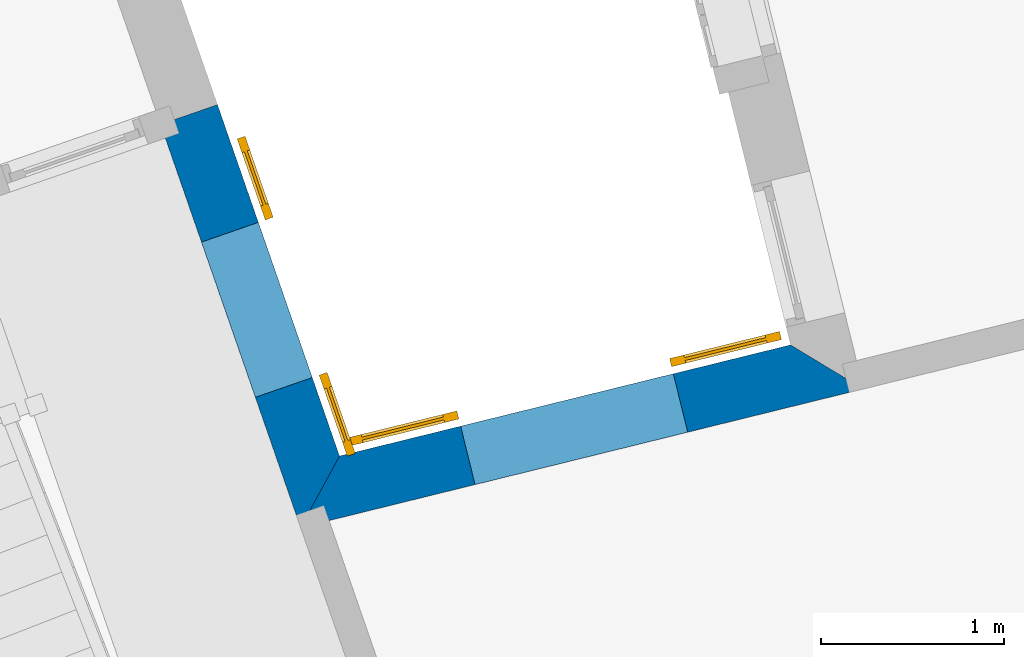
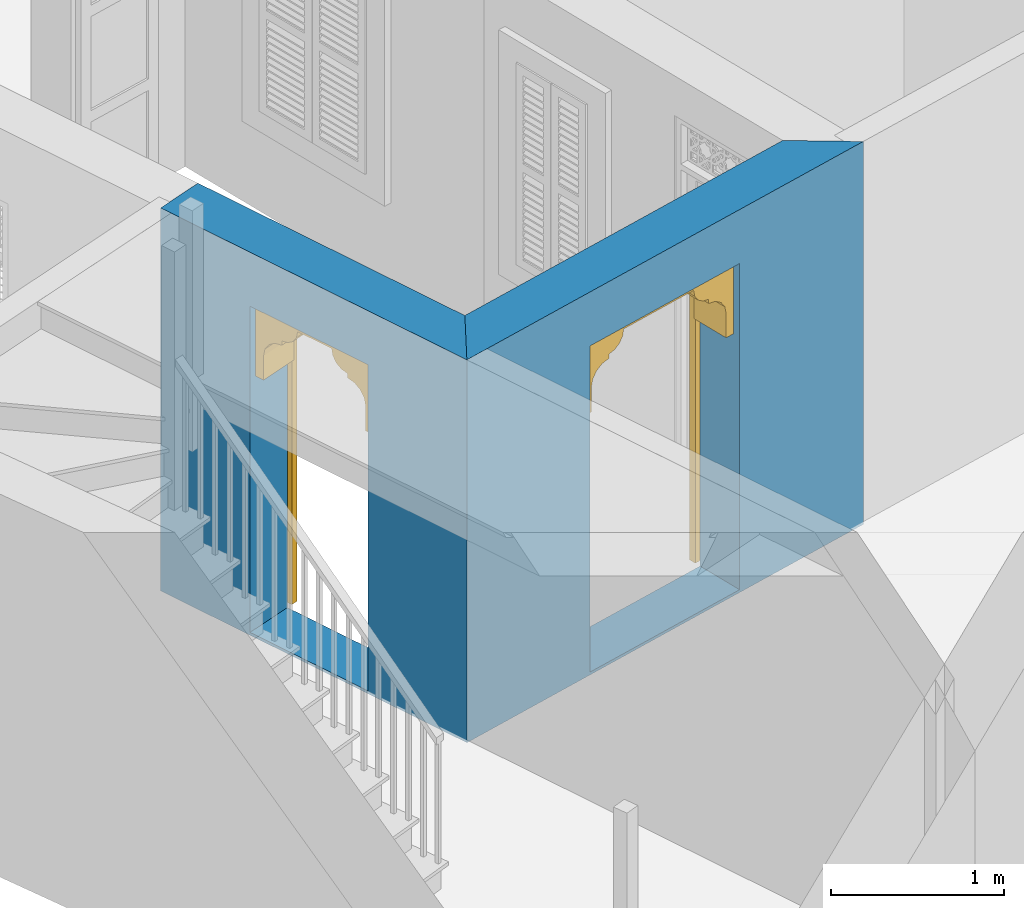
# One storey, part 4 of 12: 2 doors, 2 walls, 2 openings.
"""IFC4 building model written with IfcOpenShell, lengths in metres."""

from ifc_helpers import new_model, si_unit, frame, origin, origin_with_axes, place, context, subcontext, project, spatial, polyline, outline, extrude, faceted_brep, source, transform, mapped, material, layer, layer_set, layer_usage, type_object, type_shapes, element, fill, save


model = new_model("IFC4")

# Units and contexts
model_context = context("Model", 3, world=origin_with_axes())
body_context = subcontext(model_context, "Body", "Model", "MODEL_VIEW")
ifc_project = project(units=[si_unit("PLANEANGLEUNIT", "RADIAN"), si_unit("MASSUNIT", "GRAM", prefix="KILO"), si_unit("FORCEUNIT", "NEWTON", prefix="KILO"), si_unit("LENGTHUNIT", "METRE"), si_unit("AREAUNIT", "SQUARE_METRE"), si_unit("VOLUMEUNIT", "CUBIC_METRE")], contexts=[model_context, model_context])

# Site, building, storey
site_placement = place(None, origin_with_axes())
site = spatial("IfcSite", under=ifc_project, at=site_placement, Name="Site plot-1", CompositionType="ELEMENT")
building_placement = place(None, origin_with_axes())
building = spatial("IfcBuilding", under=site, at=building_placement, Name="Building plot-1", CompositionType="ELEMENT")
storey_placement = place(None, origin_with_axes())
storey = spatial("IfcBuildingStorey", under=building, at=storey_placement, Name="plot-1 0", CompositionType="ELEMENT", Elevation=0.0)

# Wall, opening, door
ifc_material = material(Name="Masonry")
ifc_layer = layer(ifc_material, 0.33, ventilated=False)
ifc_layer_set = layer_set([ifc_layer], Name="exterior_0.08_0.25")
ifc_layer_usage = layer_usage(ifc_layer_set, "AXIS2", "POSITIVE", -0.25)
wall_type = type_object("IfcWallType", Name="exterior_0.08_0.25", PredefinedType="SOLIDWALL", material=ifc_layer_set)
wall_1_placement = place(storey_placement, frame((3.15375789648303, 18.5725793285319, 0.0), z_axis=(0.0, 0.0, 1.0), x_axis=(-0.970961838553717, -0.239234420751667, 0.0)))
wall_1 = element("IfcWall", 1, at=wall_1_placement, inside=storey, type_object=wall_type, material=ifc_layer_usage, Name="exterior", context=body_context, shape_type="SweptSolid", body=[
    extrude(outline(polyline([(-0.0799999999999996, 0.0799999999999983), (0.249999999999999, -0.250000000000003), (2.79469538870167, -0.250000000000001), (3.09543964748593, 0.0799999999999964), (-0.0799999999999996, 0.0799999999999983)])), origin_with_axes(), (0.0, 0.0, 1.0), 2.7),
])
opening_1_placement = place(wall_1_placement, frame((0.911265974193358, 0.0, 0.02)))
opening_1 = element("IfcOpeningElement", 2, at=opening_1_placement, cuts=wall_1, Name="My Opening", ObjectType="Opening", context=body_context, shape_type="SweptSolid", body=[
    extrude(outline(polyline([(0.0, -0.270000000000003), (1.2, -0.27), (1.2, 1.1), (8.88178419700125e-16, 1.1), (0.0, -0.270000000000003)])), origin_with_axes(), (0.0, 0.0, 1.0), 2.3),
])
door_type_1 = type_object("IfcDoorType", Name="arch-1200x2300", OperationType="SINGLE_SWING_LEFT", PredefinedType="NOTDEFINED")
shared_shape_1 = source(origin(), body_context, "Body", "Brep", [
    faceted_brep([(-0.08, -0.02, 0.08), (-0.08, -0.02, 0.0), (-0.54, -0.02, 0.0), (-0.54, -0.02, 0.08), (-0.62, -0.02, 0.0), (-0.62, -0.02, 0.08), (-0.54, -0.035, 0.08), (-0.08, -0.035, 0.08), (0.0, -0.02, 0.08), (0.0, -0.02, 0.0), (-0.08, -0.066, 0.0), (-0.54, -0.066, 0.0), (-0.62, -0.066, 0.0), (-0.62, -0.066, 0.08), (-0.54, -0.02, 0.743333), (-0.62, -0.02, 0.743333), (-0.54, -0.035, 0.743333), (-0.08, -0.035, 0.743333), (-0.08, -0.02, 0.743333), (0.0, -0.02, 0.743333), (0.0, -0.066, 0.08), (0.0, -0.066, 0.0), (-0.54, -0.066, 0.08), (-0.08, -0.066, 0.08), (-0.62, -0.066, 0.743333), (-0.54, -0.02, 0.823333), (-0.62, -0.02, 0.823333), (0.0, -0.066, 0.743333), (0.0, -0.02, 0.823333), (-0.08, -0.02, 0.823333), (-0.08, -0.051, 0.08), (-0.54, -0.051, 0.08), (-0.54, -0.066, 0.743333), (-0.62, -0.066, 0.823333), (-0.54, -0.02, 1.486667), (-0.62, -0.02, 1.486667), (0.0, -0.066, 0.823333), (-0.08, -0.066, 0.743333), (0.0, -0.02, 1.486667), (-0.08, -0.02, 1.486667), (-0.08, -0.051, 0.743333), (-0.54, -0.051, 0.743333), (-0.54, -0.066, 0.823333), (-0.62, -0.066, 1.486667), (-0.54, -0.035, 0.823333), (-0.08, -0.035, 0.823333), (-0.54, -0.035, 1.486667), (-0.54, -0.02, 1.566667), (-0.62, -0.02, 1.566667), (0.0, -0.066, 1.486667), (-0.08, -0.066, 0.823333), (-0.08, -0.035, 1.486667), (0.0, -0.02, 1.566667), (-0.08, -0.02, 1.566667), (-0.54, -0.066, 1.486667), (-0.62, -0.066, 1.566667), (-0.54, -0.02, 2.23), (-0.62, -0.02, 2.23), (0.0, -0.066, 1.566667), (-0.08, -0.066, 1.486667), (0.0, -0.02, 2.23), (-0.08, -0.02, 2.23), (-0.08, -0.051, 0.823333), (-0.54, -0.051, 0.823333), (-0.54, -0.051, 1.486667), (-0.54, -0.066, 1.566667), (-0.62, -0.066, 2.23), (-0.54, -0.035, 1.566667), (-0.08, -0.035, 1.566667), (-0.54, -0.035, 2.23), (-0.54, -0.02, 2.31), (-0.62, -0.02, 2.31), (0.0, -0.066, 2.23), (-0.08, -0.066, 1.566667), (-0.08, -0.051, 1.486667), (-0.08, -0.035, 2.23), (0.0, -0.02, 2.31), (-0.08, -0.02, 2.31), (-0.54, -0.066, 2.23), (-0.62, -0.066, 2.31), (-0.54, -0.066, 2.31), (0.0, -0.066, 2.31), (-0.08, -0.066, 2.23), (-0.08, -0.066, 2.31), (-0.08, -0.051, 1.566667), (-0.54, -0.051, 1.566667), (-0.54, -0.051, 2.23), (-0.08, -0.051, 2.23), (1.74, -0.02, 0.08), (1.74, -0.02, 0.0), (1.28, -0.02, 0.0), (1.28, -0.02, 0.08), (1.82, -0.02, 0.08), (1.82, -0.02, 0.0), (1.28, -0.035, 0.08), (1.74, -0.035, 0.08), (1.2, -0.02, 0.0), (1.2, -0.02, 0.08), (1.74, -0.066, 0.0), (1.28, -0.066, 0.0), (1.82, -0.066, 0.08), (1.82, -0.066, 0.0), (1.82, -0.02, 0.743333), (1.74, -0.02, 0.743333), (1.74, -0.035, 0.743333), (1.28, -0.035, 0.743333), (1.28, -0.02, 0.743333), (1.2, -0.02, 0.743333), (1.2, -0.066, 0.0), (1.2, -0.066, 0.08), (1.28, -0.066, 0.08), (1.74, -0.066, 0.08), (1.82, -0.066, 0.743333), (1.82, -0.02, 0.823333), (1.74, -0.02, 0.823333), (1.2, -0.066, 0.743333), (1.28, -0.02, 0.823333), (1.2, -0.02, 0.823333), (1.74, -0.051, 0.08), (1.28, -0.051, 0.08), (1.74, -0.066, 0.743333), (1.82, -0.066, 0.823333), (1.82, -0.02, 1.486667), (1.74, -0.02, 1.486667), (1.2, -0.066, 0.823333), (1.28, -0.066, 0.743333), (1.28, -0.02, 1.486667), (1.2, -0.02, 1.486667), (1.28, -0.051, 0.743333), (1.74, -0.051, 0.743333), (1.74, -0.066, 0.823333), (1.82, -0.066, 1.486667), (1.28, -0.035, 0.823333), (1.74, -0.035, 0.823333), (1.74, -0.035, 1.486667), (1.82, -0.02, 1.566667), (1.74, -0.02, 1.566667), (1.2, -0.066, 1.486667), (1.28, -0.066, 0.823333), (1.28, -0.035, 1.486667), (1.28, -0.02, 1.566667), (1.2, -0.02, 1.566667), (1.74, -0.066, 1.486667), (1.82, -0.066, 1.566667), (1.82, -0.02, 2.23), (1.74, -0.02, 2.23), (1.2, -0.066, 1.566667), (1.28, -0.066, 1.486667), (1.28, -0.02, 2.23), (1.2, -0.02, 2.23), (1.74, -0.051, 0.823333), (1.28, -0.051, 0.823333), (1.74, -0.051, 1.486667), (1.74, -0.066, 1.566667), (1.82, -0.066, 2.23), (1.28, -0.035, 1.566667), (1.74, -0.035, 1.566667), (1.74, -0.035, 2.23), (1.82, -0.02, 2.31), (1.74, -0.02, 2.31), (1.2, -0.066, 2.23), (1.28, -0.066, 1.566667), (1.28, -0.051, 1.486667), (1.28, -0.035, 2.23), (1.28, -0.02, 2.31), (1.2, -0.02, 2.31), (1.74, -0.066, 2.23), (1.82, -0.066, 2.31), (1.74, -0.066, 2.31), (1.2, -0.066, 2.31), (1.28, -0.066, 2.23), (1.28, -0.066, 2.31), (1.74, -0.051, 1.566667), (1.28, -0.051, 1.566667), (1.74, -0.051, 2.23), (1.28, -0.051, 2.23), (1.2, 0.03, 1.78), (1.2, 0.03, 1.95), (1.14, 0.03, 1.95), (1.14, 0.03, 1.78), (1.14, 0.3, 1.95), (1.14, 0.3, 1.78), (1.2, 0.03, 2.12), (1.129, 0.03, 2.004), (1.2, 0.3, 1.78), (1.2, 0.3, 1.95), (1.129, 0.3, 2.004), (1.099, 0.03, 2.049), (1.2, 0.3, 2.12), (1.099, 0.3, 2.049), (1.054, 0.03, 2.079), (1.2, 0.3, 2.29), (1.2, 0.03, 2.29), (1.054, 0.3, 2.079), (1.0, 0.03, 2.09), (1.0, 0.03, 2.12), (0.954, 0.03, 2.129), (0.88, 0.3, 2.29), (0.88, 0.03, 2.29), (1.0, 0.3, 2.12), (0.954, 0.3, 2.129), (1.0, 0.3, 2.09), (0.915, 0.03, 2.155), (0.889, 0.3, 2.194), (0.88, 0.3, 2.24), (0.88, 0.03, 2.24), (0.889, 0.03, 2.194), (0.915, 0.3, 2.155), (0.06, 0.03, 1.78), (0.06, 0.03, 1.95), (0.0, 0.03, 1.95), (0.0, 0.03, 1.78), (0.06, 0.3, 1.78), (0.06, 0.3, 1.95), (0.071, 0.03, 2.004), (0.0, 0.03, 2.12), (0.0, 0.3, 1.95), (0.0, 0.3, 1.78), (0.071, 0.3, 2.004), (0.101, 0.03, 2.049), (0.0, 0.3, 2.12), (0.101, 0.3, 2.049), (0.146, 0.03, 2.079), (0.0, 0.03, 2.29), (0.0, 0.3, 2.29), (0.146, 0.3, 2.079), (0.2, 0.03, 2.12), (0.2, 0.03, 2.09), (0.246, 0.03, 2.129), (0.32, 0.03, 2.29), (0.32, 0.3, 2.29), (0.246, 0.3, 2.129), (0.2, 0.3, 2.12), (0.2, 0.3, 2.09), (0.285, 0.03, 2.155), (0.32, 0.3, 2.24), (0.311, 0.3, 2.194), (0.311, 0.03, 2.194), (0.32, 0.03, 2.24), (0.285, 0.3, 2.155)], [[[0, 1, 2, 3]], [[4, 5, 3, 2]], [[0, 3, 6, 7]], [[1, 0, 8, 9]], [[2, 1, 10, 11]], [[5, 4, 12, 13]], [[14, 3, 5, 15]], [[4, 2, 11, 12]], [[3, 14, 16, 6]], [[6, 16, 17, 7]], [[18, 0, 7, 17]], [[0, 18, 19, 8]], [[9, 8, 20, 21]], [[1, 9, 21, 10]], [[22, 11, 10, 23]], [[13, 12, 11, 22]], [[15, 5, 13, 24]], [[25, 14, 15, 26]], [[14, 18, 17, 16]], [[8, 19, 27, 20]], [[28, 19, 18, 29]], [[23, 10, 21, 20]], [[22, 23, 30, 31]], [[22, 32, 24, 13]], [[26, 15, 24, 33]], [[29, 18, 14, 25]], [[34, 25, 26, 35]], [[19, 28, 36, 27]], [[20, 27, 37, 23]], [[38, 28, 29, 39]], [[23, 37, 40, 30]], [[41, 31, 30, 40]], [[32, 22, 31, 41]], [[32, 42, 33, 24]], [[35, 26, 33, 43]], [[29, 25, 44, 45]], [[25, 34, 46, 44]], [[47, 34, 35, 48]], [[28, 38, 49, 36]], [[27, 36, 50, 37]], [[39, 29, 45, 51]], [[52, 38, 39, 53]], [[37, 32, 41, 40]], [[37, 50, 42, 32]], [[42, 54, 43, 33]], [[48, 35, 43, 55]], [[44, 46, 51, 45]], [[34, 39, 51, 46]], [[34, 47, 53, 39]], [[56, 47, 48, 57]], [[38, 52, 58, 49]], [[36, 49, 59, 50]], [[60, 52, 53, 61]], [[42, 50, 62, 63]], [[54, 42, 63, 64]], [[54, 65, 55, 43]], [[57, 48, 55, 66]], [[53, 47, 67, 68]], [[47, 56, 69, 67]], [[70, 56, 57, 71]], [[52, 60, 72, 58]], [[49, 58, 73, 59]], [[50, 59, 74, 62]], [[61, 53, 68, 75]], [[76, 60, 61, 77]], [[64, 63, 62, 74]], [[59, 54, 64, 74]], [[65, 54, 59, 73]], [[65, 78, 66, 55]], [[71, 57, 66, 79]], [[67, 69, 75, 68]], [[56, 61, 75, 69]], [[77, 61, 56, 70]], [[70, 71, 79, 80]], [[60, 76, 81, 72]], [[58, 72, 82, 73]], [[76, 77, 83, 81]], [[65, 73, 84, 85]], [[78, 65, 85, 86]], [[78, 80, 79, 66]], [[77, 70, 80, 83]], [[72, 81, 83, 82]], [[73, 82, 87, 84]], [[86, 85, 84, 87]], [[82, 78, 86, 87]], [[82, 83, 80, 78]], [[88, 89, 90, 91]], [[89, 88, 92, 93]], [[94, 95, 88, 91]], [[96, 97, 91, 90]], [[98, 99, 90, 89]], [[100, 101, 93, 92]], [[102, 92, 88, 103]], [[101, 98, 89, 93]], [[95, 104, 103, 88]], [[94, 105, 104, 95]], [[105, 94, 91, 106]], [[97, 107, 106, 91]], [[108, 109, 97, 96]], [[99, 108, 96, 90]], [[110, 99, 98, 111]], [[111, 98, 101, 100]], [[112, 100, 92, 102]], [[113, 102, 103, 114]], [[104, 105, 106, 103]], [[109, 115, 107, 97]], [[116, 106, 107, 117]], [[109, 108, 99, 110]], [[118, 119, 110, 111]], [[100, 112, 120, 111]], [[121, 112, 102, 113]], [[114, 103, 106, 116]], [[122, 113, 114, 123]], [[115, 124, 117, 107]], [[110, 125, 115, 109]], [[126, 116, 117, 127]], [[119, 128, 125, 110]], [[128, 119, 118, 129]], [[129, 118, 111, 120]], [[112, 121, 130, 120]], [[131, 121, 113, 122]], [[132, 133, 114, 116]], [[133, 134, 123, 114]], [[135, 122, 123, 136]], [[124, 137, 127, 117]], [[125, 138, 124, 115]], [[139, 132, 116, 126]], [[140, 126, 127, 141]], [[128, 129, 120, 125]], [[120, 130, 138, 125]], [[121, 131, 142, 130]], [[143, 131, 122, 135]], [[132, 139, 134, 133]], [[134, 139, 126, 123]], [[126, 140, 136, 123]], [[144, 135, 136, 145]], [[137, 146, 141, 127]], [[138, 147, 137, 124]], [[148, 140, 141, 149]], [[150, 151, 138, 130]], [[152, 150, 130, 142]], [[131, 143, 153, 142]], [[154, 143, 135, 144]], [[155, 156, 136, 140]], [[156, 157, 145, 136]], [[158, 144, 145, 159]], [[146, 160, 149, 141]], [[147, 161, 146, 137]], [[151, 162, 147, 138]], [[163, 155, 140, 148]], [[164, 148, 149, 165]], [[162, 151, 150, 152]], [[162, 152, 142, 147]], [[161, 147, 142, 153]], [[143, 154, 166, 153]], [[167, 154, 144, 158]], [[155, 163, 157, 156]], [[157, 163, 148, 145]], [[159, 145, 148, 164]], [[168, 167, 158, 159]], [[160, 169, 165, 149]], [[161, 170, 160, 146]], [[169, 171, 164, 165]], [[172, 173, 161, 153]], [[174, 172, 153, 166]], [[154, 167, 168, 166]], [[171, 168, 159, 164]], [[170, 171, 169, 160]], [[173, 175, 170, 161]], [[175, 173, 172, 174]], [[175, 174, 166, 170]], [[166, 168, 171, 170]], [[176, 177, 178, 179]], [[180, 181, 179, 178]], [[177, 182, 183, 178]], [[177, 176, 184, 185]], [[181, 184, 176, 179]], [[181, 180, 185, 184]], [[186, 180, 178, 183]], [[182, 187, 183]], [[182, 177, 185, 188]], [[180, 186, 188, 185]], [[189, 186, 183, 187]], [[182, 190, 187]], [[188, 191, 192, 182]], [[188, 186, 189]], [[193, 189, 187, 190]], [[194, 190, 182, 195]], [[182, 192, 196, 195]], [[192, 191, 197, 198]], [[199, 200, 191, 188]], [[188, 189, 193]], [[201, 193, 190, 194]], [[199, 201, 194, 195]], [[200, 199, 195, 196]], [[192, 202, 196]], [[191, 203, 204, 197]], [[192, 198, 205, 206]], [[207, 191, 200]], [[199, 188, 193, 201]], [[207, 200, 196, 202]], [[192, 206, 202]], [[204, 203, 206, 205]], [[203, 191, 207]], [[203, 207, 202, 206]], [[208, 209, 210, 211]], [[209, 208, 212, 213]], [[209, 214, 215, 210]], [[211, 210, 216, 217]], [[208, 211, 217, 212]], [[217, 216, 213, 212]], [[214, 209, 213, 218]], [[214, 219, 215]], [[220, 216, 210, 215]], [[216, 220, 218, 213]], [[219, 214, 218, 221]], [[219, 222, 215]], [[215, 223, 224, 220]], [[221, 218, 220]], [[222, 219, 221, 225]], [[226, 215, 222, 227]], [[226, 228, 223, 215]], [[229, 230, 224, 223]], [[220, 224, 231, 232]], [[225, 221, 220]], [[227, 222, 225, 233]], [[226, 227, 233, 232]], [[228, 226, 232, 231]], [[228, 234, 223]], [[230, 235, 236, 224]], [[237, 238, 229, 223]], [[231, 224, 239]], [[233, 225, 220, 232]], [[234, 228, 231, 239]], [[234, 237, 223]], [[238, 237, 236, 235]], [[239, 224, 236]], [[237, 234, 239, 236]], [[238, 235, 204, 205]], [[235, 230, 197, 204]], [[229, 238, 205, 198]], [[230, 229, 198, 197]]]),
])
type_shapes(door_type_1, [shared_shape_1])
door_1_placement = place(storey_placement, frame((2.20436011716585, 18.6167328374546, 0.02), z_axis=(0.0, 0.0, 1.0), x_axis=(-1.16515420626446, -0.287081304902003, 0.0)))
door_1 = element("IfcDoor", 3, at=door_1_placement, inside=storey, type_object=door_type_1, Name="living sahn door", OverallHeight=2.3, OverallWidth=1.2, context=body_context, shape_type="MappedRepresentation", body=[
    mapped(shared_shape_1, transform((0.0, 0.0, 0.0), scale=1.0)),
])
fill(opening_1, door_1)

wall_2_placement = place(storey_placement, frame((0.218994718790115, 17.8494856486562, 0.0), z_axis=(0.0, 0.0, 1.0), x_axis=(-0.328085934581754, 0.944647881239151, 0.0)))
wall_2 = element("IfcWall", 4, at=wall_2_placement, inside=storey, type_object=wall_type, material=ifc_layer_usage, Name="exterior", context=body_context, shape_type="SweptSolid", body=[
    extrude(outline(polyline([(-0.0729076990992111, 0.0799999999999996), (0.227836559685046, -0.249999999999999), (2.26575725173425, -0.25), (2.26575725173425, 0.0799999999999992), (-0.0729076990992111, 0.0799999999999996)])), origin_with_axes(), (0.0, 0.0, 1.0), 2.7),
])
opening_2_placement = place(wall_2_placement, frame((0.682878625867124, 0.0, 0.02)))
opening_2 = element("IfcOpeningElement", 5, at=opening_2_placement, cuts=wall_2, Name="My Opening", ObjectType="Opening", context=body_context, shape_type="SweptSolid", body=[
    extrude(outline(polyline([(0.0, -0.27), (0.900000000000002, -0.27), (0.900000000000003, 1.1), (1.22124532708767e-15, 1.1), (0.0, -0.27)])), origin_with_axes(), (0.0, 0.0, 1.0), 2.3),
])
door_type_2 = type_object("IfcDoorType", Name="arch-900x2300", OperationType="SINGLE_SWING_LEFT", PredefinedType="NOTDEFINED")
shared_shape_2 = source(origin(), body_context, "Body", "Brep", [
    faceted_brep([(-0.08, -0.02, 0.08), (-0.08, -0.02, 0.0), (-0.39, -0.02, 0.0), (-0.39, -0.02, 0.08), (-0.47, -0.02, 0.0), (-0.47, -0.02, 0.08), (-0.39, -0.035, 0.08), (-0.08, -0.035, 0.08), (0.0, -0.02, 0.08), (0.0, -0.02, 0.0), (-0.08, -0.066, 0.0), (-0.39, -0.066, 0.0), (-0.47, -0.066, 0.0), (-0.47, -0.066, 0.08), (-0.39, -0.02, 0.743333), (-0.47, -0.02, 0.743333), (-0.39, -0.035, 0.743333), (-0.08, -0.035, 0.743333), (-0.08, -0.02, 0.743333), (0.0, -0.02, 0.743333), (0.0, -0.066, 0.08), (0.0, -0.066, 0.0), (-0.39, -0.066, 0.08), (-0.08, -0.066, 0.08), (-0.47, -0.066, 0.743333), (-0.39, -0.02, 0.823333), (-0.47, -0.02, 0.823333), (0.0, -0.066, 0.743333), (0.0, -0.02, 0.823333), (-0.08, -0.02, 0.823333), (-0.08, -0.051, 0.08), (-0.39, -0.051, 0.08), (-0.39, -0.066, 0.743333), (-0.47, -0.066, 0.823333), (-0.39, -0.02, 1.486667), (-0.47, -0.02, 1.486667), (0.0, -0.066, 0.823333), (-0.08, -0.066, 0.743333), (0.0, -0.02, 1.486667), (-0.08, -0.02, 1.486667), (-0.08, -0.051, 0.743333), (-0.39, -0.051, 0.743333), (-0.39, -0.066, 0.823333), (-0.47, -0.066, 1.486667), (-0.39, -0.035, 0.823333), (-0.08, -0.035, 0.823333), (-0.39, -0.035, 1.486667), (-0.39, -0.02, 1.566667), (-0.47, -0.02, 1.566667), (0.0, -0.066, 1.486667), (-0.08, -0.066, 0.823333), (-0.08, -0.035, 1.486667), (0.0, -0.02, 1.566667), (-0.08, -0.02, 1.566667), (-0.39, -0.066, 1.486667), (-0.47, -0.066, 1.566667), (-0.39, -0.02, 2.23), (-0.47, -0.02, 2.23), (0.0, -0.066, 1.566667), (-0.08, -0.066, 1.486667), (0.0, -0.02, 2.23), (-0.08, -0.02, 2.23), (-0.08, -0.051, 0.823333), (-0.39, -0.051, 0.823333), (-0.39, -0.051, 1.486667), (-0.39, -0.066, 1.566667), (-0.47, -0.066, 2.23), (-0.39, -0.035, 1.566667), (-0.08, -0.035, 1.566667), (-0.39, -0.035, 2.23), (-0.39, -0.02, 2.31), (-0.47, -0.02, 2.31), (0.0, -0.066, 2.23), (-0.08, -0.066, 1.566667), (-0.08, -0.051, 1.486667), (-0.08, -0.035, 2.23), (0.0, -0.02, 2.31), (-0.08, -0.02, 2.31), (-0.39, -0.066, 2.23), (-0.47, -0.066, 2.31), (-0.39, -0.066, 2.31), (0.0, -0.066, 2.31), (-0.08, -0.066, 2.23), (-0.08, -0.066, 2.31), (-0.08, -0.051, 1.566667), (-0.39, -0.051, 1.566667), (-0.39, -0.051, 2.23), (-0.08, -0.051, 2.23), (1.29, -0.02, 0.08), (1.29, -0.02, 0.0), (0.98, -0.02, 0.0), (0.98, -0.02, 0.08), (1.37, -0.02, 0.08), (1.37, -0.02, 0.0), (0.98, -0.035, 0.08), (1.29, -0.035, 0.08), (0.9, -0.02, 0.0), (0.9, -0.02, 0.08), (1.29, -0.066, 0.0), (0.98, -0.066, 0.0), (1.37, -0.066, 0.08), (1.37, -0.066, 0.0), (1.37, -0.02, 0.743333), (1.29, -0.02, 0.743333), (1.29, -0.035, 0.743333), (0.98, -0.035, 0.743333), (0.98, -0.02, 0.743333), (0.9, -0.02, 0.743333), (0.9, -0.066, 0.0), (0.9, -0.066, 0.08), (0.98, -0.066, 0.08), (1.29, -0.066, 0.08), (1.37, -0.066, 0.743333), (1.37, -0.02, 0.823333), (1.29, -0.02, 0.823333), (0.9, -0.066, 0.743333), (0.98, -0.02, 0.823333), (0.9, -0.02, 0.823333), (1.29, -0.051, 0.08), (0.98, -0.051, 0.08), (1.29, -0.066, 0.743333), (1.37, -0.066, 0.823333), (1.37, -0.02, 1.486667), (1.29, -0.02, 1.486667), (0.9, -0.066, 0.823333), (0.98, -0.066, 0.743333), (0.98, -0.02, 1.486667), (0.9, -0.02, 1.486667), (0.98, -0.051, 0.743333), (1.29, -0.051, 0.743333), (1.29, -0.066, 0.823333), (1.37, -0.066, 1.486667), (0.98, -0.035, 0.823333), (1.29, -0.035, 0.823333), (1.29, -0.035, 1.486667), (1.37, -0.02, 1.566667), (1.29, -0.02, 1.566667), (0.9, -0.066, 1.486667), (0.98, -0.066, 0.823333), (0.98, -0.035, 1.486667), (0.98, -0.02, 1.566667), (0.9, -0.02, 1.566667), (1.29, -0.066, 1.486667), (1.37, -0.066, 1.566667), (1.37, -0.02, 2.23), (1.29, -0.02, 2.23), (0.9, -0.066, 1.566667), (0.98, -0.066, 1.486667), (0.98, -0.02, 2.23), (0.9, -0.02, 2.23), (1.29, -0.051, 0.823333), (0.98, -0.051, 0.823333), (1.29, -0.051, 1.486667), (1.29, -0.066, 1.566667), (1.37, -0.066, 2.23), (0.98, -0.035, 1.566667), (1.29, -0.035, 1.566667), (1.29, -0.035, 2.23), (1.37, -0.02, 2.31), (1.29, -0.02, 2.31), (0.9, -0.066, 2.23), (0.98, -0.066, 1.566667), (0.98, -0.051, 1.486667), (0.98, -0.035, 2.23), (0.98, -0.02, 2.31), (0.9, -0.02, 2.31), (1.29, -0.066, 2.23), (1.37, -0.066, 2.31), (1.29, -0.066, 2.31), (0.9, -0.066, 2.31), (0.98, -0.066, 2.23), (0.98, -0.066, 2.31), (1.29, -0.051, 1.566667), (0.98, -0.051, 1.566667), (1.29, -0.051, 2.23), (0.98, -0.051, 2.23), (0.9, 0.03, 1.78), (0.9, 0.03, 1.95), (0.84, 0.03, 1.95), (0.84, 0.03, 1.78), (0.84, 0.3, 1.95), (0.84, 0.3, 1.78), (0.9, 0.03, 2.12), (0.829, 0.03, 2.004), (0.9, 0.3, 1.78), (0.9, 0.3, 1.95), (0.829, 0.3, 2.004), (0.799, 0.03, 2.049), (0.9, 0.3, 2.12), (0.799, 0.3, 2.049), (0.754, 0.03, 2.079), (0.9, 0.3, 2.29), (0.9, 0.03, 2.29), (0.754, 0.3, 2.079), (0.7, 0.03, 2.09), (0.7, 0.03, 2.12), (0.654, 0.03, 2.129), (0.58, 0.3, 2.29), (0.58, 0.03, 2.29), (0.7, 0.3, 2.12), (0.654, 0.3, 2.129), (0.7, 0.3, 2.09), (0.615, 0.03, 2.155), (0.589, 0.3, 2.194), (0.58, 0.3, 2.24), (0.58, 0.03, 2.24), (0.589, 0.03, 2.194), (0.615, 0.3, 2.155), (0.06, 0.03, 1.78), (0.06, 0.03, 1.95), (0.0, 0.03, 1.95), (0.0, 0.03, 1.78), (0.06, 0.3, 1.78), (0.06, 0.3, 1.95), (0.071, 0.03, 2.004), (0.0, 0.03, 2.12), (0.0, 0.3, 1.95), (0.0, 0.3, 1.78), (0.071, 0.3, 2.004), (0.101, 0.03, 2.049), (0.0, 0.3, 2.12), (0.101, 0.3, 2.049), (0.146, 0.03, 2.079), (0.0, 0.03, 2.29), (0.0, 0.3, 2.29), (0.146, 0.3, 2.079), (0.2, 0.03, 2.12), (0.2, 0.03, 2.09), (0.246, 0.03, 2.129), (0.32, 0.03, 2.29), (0.32, 0.3, 2.29), (0.246, 0.3, 2.129), (0.2, 0.3, 2.12), (0.2, 0.3, 2.09), (0.285, 0.03, 2.155), (0.32, 0.3, 2.24), (0.311, 0.3, 2.194), (0.311, 0.03, 2.194), (0.32, 0.03, 2.24), (0.285, 0.3, 2.155)], [[[0, 1, 2, 3]], [[4, 5, 3, 2]], [[0, 3, 6, 7]], [[1, 0, 8, 9]], [[2, 1, 10, 11]], [[5, 4, 12, 13]], [[14, 3, 5, 15]], [[4, 2, 11, 12]], [[3, 14, 16, 6]], [[6, 16, 17, 7]], [[18, 0, 7, 17]], [[0, 18, 19, 8]], [[9, 8, 20, 21]], [[1, 9, 21, 10]], [[22, 11, 10, 23]], [[13, 12, 11, 22]], [[15, 5, 13, 24]], [[25, 14, 15, 26]], [[14, 18, 17, 16]], [[8, 19, 27, 20]], [[28, 19, 18, 29]], [[23, 10, 21, 20]], [[22, 23, 30, 31]], [[22, 32, 24, 13]], [[26, 15, 24, 33]], [[29, 18, 14, 25]], [[34, 25, 26, 35]], [[19, 28, 36, 27]], [[20, 27, 37, 23]], [[38, 28, 29, 39]], [[23, 37, 40, 30]], [[41, 31, 30, 40]], [[32, 22, 31, 41]], [[32, 42, 33, 24]], [[35, 26, 33, 43]], [[29, 25, 44, 45]], [[25, 34, 46, 44]], [[47, 34, 35, 48]], [[28, 38, 49, 36]], [[27, 36, 50, 37]], [[39, 29, 45, 51]], [[52, 38, 39, 53]], [[37, 32, 41, 40]], [[37, 50, 42, 32]], [[42, 54, 43, 33]], [[48, 35, 43, 55]], [[44, 46, 51, 45]], [[34, 39, 51, 46]], [[34, 47, 53, 39]], [[56, 47, 48, 57]], [[38, 52, 58, 49]], [[36, 49, 59, 50]], [[60, 52, 53, 61]], [[42, 50, 62, 63]], [[54, 42, 63, 64]], [[54, 65, 55, 43]], [[57, 48, 55, 66]], [[53, 47, 67, 68]], [[47, 56, 69, 67]], [[70, 56, 57, 71]], [[52, 60, 72, 58]], [[49, 58, 73, 59]], [[50, 59, 74, 62]], [[61, 53, 68, 75]], [[76, 60, 61, 77]], [[64, 63, 62, 74]], [[59, 54, 64, 74]], [[65, 54, 59, 73]], [[65, 78, 66, 55]], [[71, 57, 66, 79]], [[67, 69, 75, 68]], [[56, 61, 75, 69]], [[77, 61, 56, 70]], [[70, 71, 79, 80]], [[60, 76, 81, 72]], [[58, 72, 82, 73]], [[76, 77, 83, 81]], [[65, 73, 84, 85]], [[78, 65, 85, 86]], [[78, 80, 79, 66]], [[77, 70, 80, 83]], [[72, 81, 83, 82]], [[73, 82, 87, 84]], [[86, 85, 84, 87]], [[82, 78, 86, 87]], [[82, 83, 80, 78]], [[88, 89, 90, 91]], [[89, 88, 92, 93]], [[94, 95, 88, 91]], [[96, 97, 91, 90]], [[98, 99, 90, 89]], [[100, 101, 93, 92]], [[102, 92, 88, 103]], [[101, 98, 89, 93]], [[95, 104, 103, 88]], [[94, 105, 104, 95]], [[105, 94, 91, 106]], [[97, 107, 106, 91]], [[108, 109, 97, 96]], [[99, 108, 96, 90]], [[110, 99, 98, 111]], [[111, 98, 101, 100]], [[112, 100, 92, 102]], [[113, 102, 103, 114]], [[104, 105, 106, 103]], [[109, 115, 107, 97]], [[116, 106, 107, 117]], [[109, 108, 99, 110]], [[118, 119, 110, 111]], [[100, 112, 120, 111]], [[121, 112, 102, 113]], [[114, 103, 106, 116]], [[122, 113, 114, 123]], [[115, 124, 117, 107]], [[110, 125, 115, 109]], [[126, 116, 117, 127]], [[119, 128, 125, 110]], [[128, 119, 118, 129]], [[129, 118, 111, 120]], [[112, 121, 130, 120]], [[131, 121, 113, 122]], [[132, 133, 114, 116]], [[133, 134, 123, 114]], [[135, 122, 123, 136]], [[124, 137, 127, 117]], [[125, 138, 124, 115]], [[139, 132, 116, 126]], [[140, 126, 127, 141]], [[128, 129, 120, 125]], [[120, 130, 138, 125]], [[121, 131, 142, 130]], [[143, 131, 122, 135]], [[132, 139, 134, 133]], [[134, 139, 126, 123]], [[126, 140, 136, 123]], [[144, 135, 136, 145]], [[137, 146, 141, 127]], [[138, 147, 137, 124]], [[148, 140, 141, 149]], [[150, 151, 138, 130]], [[152, 150, 130, 142]], [[131, 143, 153, 142]], [[154, 143, 135, 144]], [[155, 156, 136, 140]], [[156, 157, 145, 136]], [[158, 144, 145, 159]], [[146, 160, 149, 141]], [[147, 161, 146, 137]], [[151, 162, 147, 138]], [[163, 155, 140, 148]], [[164, 148, 149, 165]], [[162, 151, 150, 152]], [[162, 152, 142, 147]], [[161, 147, 142, 153]], [[143, 154, 166, 153]], [[167, 154, 144, 158]], [[155, 163, 157, 156]], [[157, 163, 148, 145]], [[159, 145, 148, 164]], [[168, 167, 158, 159]], [[160, 169, 165, 149]], [[161, 170, 160, 146]], [[169, 171, 164, 165]], [[172, 173, 161, 153]], [[174, 172, 153, 166]], [[154, 167, 168, 166]], [[171, 168, 159, 164]], [[170, 171, 169, 160]], [[173, 175, 170, 161]], [[175, 173, 172, 174]], [[175, 174, 166, 170]], [[166, 168, 171, 170]], [[176, 177, 178, 179]], [[180, 181, 179, 178]], [[177, 182, 183, 178]], [[177, 176, 184, 185]], [[181, 184, 176, 179]], [[181, 180, 185, 184]], [[186, 180, 178, 183]], [[182, 187, 183]], [[182, 177, 185, 188]], [[180, 186, 188, 185]], [[189, 186, 183, 187]], [[182, 190, 187]], [[188, 191, 192, 182]], [[188, 186, 189]], [[193, 189, 187, 190]], [[194, 190, 182, 195]], [[182, 192, 196, 195]], [[192, 191, 197, 198]], [[199, 200, 191, 188]], [[188, 189, 193]], [[201, 193, 190, 194]], [[199, 201, 194, 195]], [[200, 199, 195, 196]], [[192, 202, 196]], [[191, 203, 204, 197]], [[192, 198, 205, 206]], [[207, 191, 200]], [[199, 188, 193, 201]], [[207, 200, 196, 202]], [[192, 206, 202]], [[204, 203, 206, 205]], [[203, 191, 207]], [[203, 207, 202, 206]], [[208, 209, 210, 211]], [[209, 208, 212, 213]], [[209, 214, 215, 210]], [[211, 210, 216, 217]], [[208, 211, 217, 212]], [[217, 216, 213, 212]], [[214, 209, 213, 218]], [[214, 219, 215]], [[220, 216, 210, 215]], [[216, 220, 218, 213]], [[219, 214, 218, 221]], [[219, 222, 215]], [[215, 223, 224, 220]], [[221, 218, 220]], [[222, 219, 221, 225]], [[226, 215, 222, 227]], [[226, 228, 223, 215]], [[229, 230, 224, 223]], [[220, 224, 231, 232]], [[225, 221, 220]], [[227, 222, 225, 233]], [[226, 227, 233, 232]], [[228, 226, 232, 231]], [[228, 234, 223]], [[230, 235, 236, 224]], [[237, 238, 229, 223]], [[231, 224, 239]], [[233, 225, 220, 232]], [[234, 228, 231, 239]], [[234, 237, 223]], [[238, 237, 236, 235]], [[239, 224, 236]], [[237, 234, 239, 236]], [[238, 235, 204, 205]], [[235, 230, 197, 204]], [[229, 238, 205, 198]], [[230, 229, 198, 197]]]),
])
type_shapes(door_type_2, [shared_shape_2])
door_2_placement = place(storey_placement, frame((0.250006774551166, 18.5831486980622, 0.02), z_axis=(0.0, 0.0, 1.0), x_axis=(-0.295277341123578, 0.850183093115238, 0.0)))
door_2 = element("IfcDoor", 6, at=door_2_placement, inside=storey, type_object=door_type_2, Name="circulation sahn door", OverallHeight=2.3, OverallWidth=0.9, context=body_context, shape_type="MappedRepresentation", body=[
    mapped(shared_shape_2, transform((0.0, 0.0, 0.0), scale=1.0)),
])
fill(opening_2, door_2)

save(model, "model.ifc")
